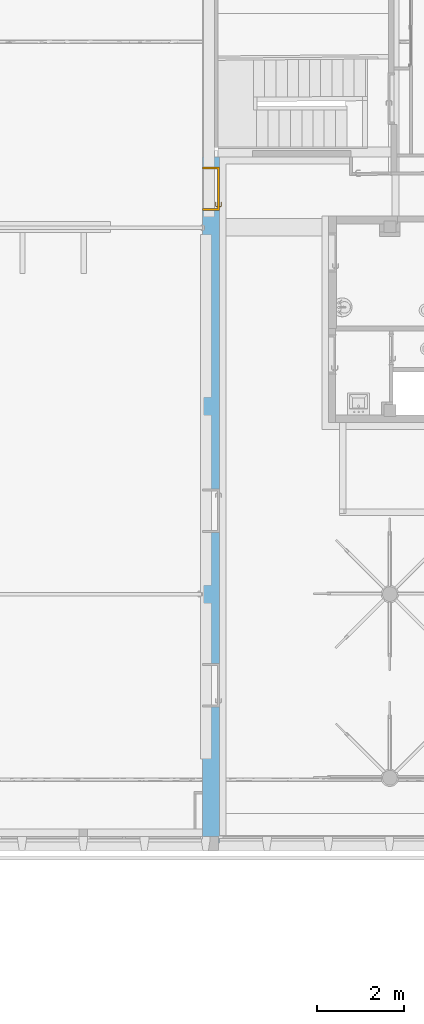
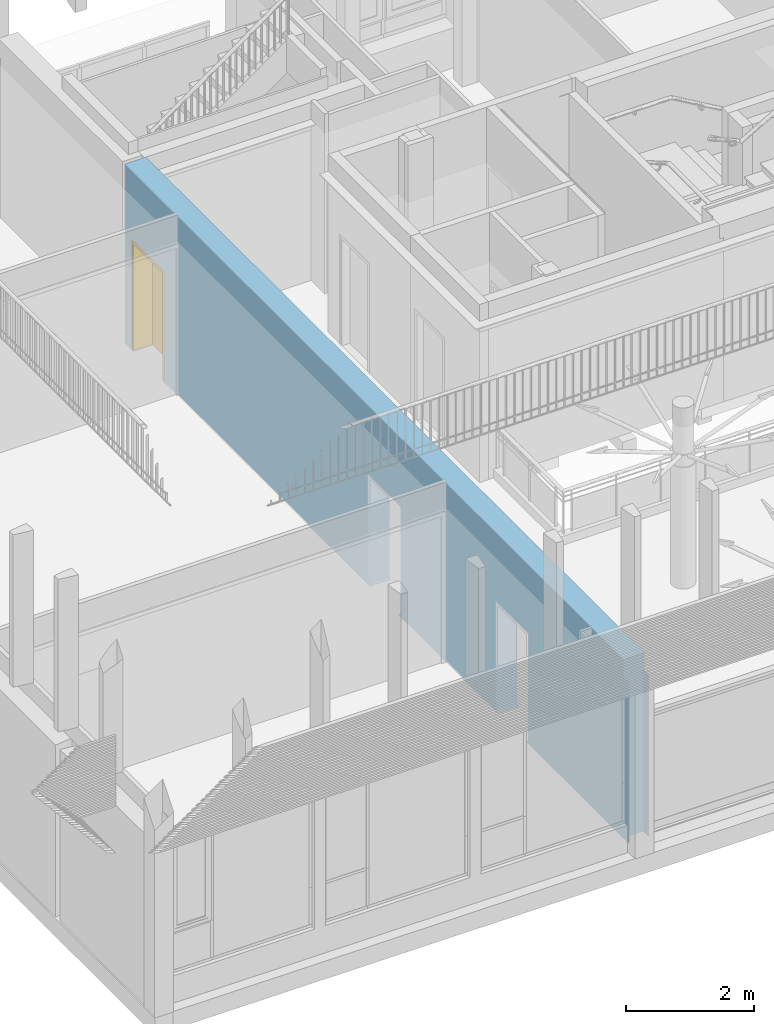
# One storey, part 30 of 65: 1 door, 3 openings, plus 1 element that does not belong to this part.
"""IFC4 building model written with IfcOpenShell, lengths in metres."""

from ifc_helpers import new_model, entity, si_unit, converted_unit, derived_unit, direction, frame, origin, place, context, subcontext, project, spatial, indexed_curve, outline, extrude, polygons, source, transform, mapped, material, material_list, layer, layer_set, constituent, constituent_set, type_object, type_shapes, element, fill, save


model = new_model("IFC4")

# Units and contexts
model_context = context("Model", 3, precision=1e-05, world=origin(), true_north=direction((6.12303176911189e-17, 1.0)))
body_context = subcontext(model_context, "Body", "Model", "MODEL_VIEW")
ifc_project = project(units=[si_unit("LENGTHUNIT", "METRE"), si_unit("AREAUNIT", "SQUARE_METRE"), si_unit("VOLUMEUNIT", "CUBIC_METRE"), converted_unit("PLANEANGLEUNIT", "DEGREE", entity("IfcRatioMeasure", 0.0174532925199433), si_unit("PLANEANGLEUNIT", "RADIAN"), dimensions=[0, 0, 0, 0, 0, 0, 0]), si_unit("MASSUNIT", "GRAM", prefix="KILO"), derived_unit("MASSDENSITYUNIT", [(si_unit("MASSUNIT", "GRAM", prefix="KILO"), 1), (si_unit("LENGTHUNIT", "METRE"), -3)]), derived_unit("MOMENTOFINERTIAUNIT", [(si_unit("LENGTHUNIT", "METRE"), 4)]), si_unit("TIMEUNIT", "SECOND"), si_unit("FREQUENCYUNIT", "HERTZ"), si_unit("THERMODYNAMICTEMPERATUREUNIT", "DEGREE_CELSIUS"), derived_unit("THERMALTRANSMITTANCEUNIT", [(si_unit("MASSUNIT", "GRAM", prefix="KILO"), 1), (si_unit("THERMODYNAMICTEMPERATUREUNIT", "KELVIN"), -1), (si_unit("TIMEUNIT", "SECOND"), -3)]), derived_unit("VOLUMETRICFLOWRATEUNIT", [(si_unit("LENGTHUNIT", "METRE"), 3), (si_unit("TIMEUNIT", "SECOND"), -1)]), si_unit("ELECTRICCURRENTUNIT", "AMPERE"), si_unit("ELECTRICVOLTAGEUNIT", "VOLT"), si_unit("POWERUNIT", "WATT"), si_unit("FORCEUNIT", "NEWTON", prefix="KILO"), si_unit("ILLUMINANCEUNIT", "LUX"), si_unit("LUMINOUSFLUXUNIT", "LUMEN"), si_unit("LUMINOUSINTENSITYUNIT", "CANDELA"), derived_unit("USERDEFINED", [(si_unit("MASSUNIT", "GRAM", prefix="KILO"), -1), (si_unit("LENGTHUNIT", "METRE"), -2), (si_unit("TIMEUNIT", "SECOND"), 3), (si_unit("LUMINOUSFLUXUNIT", "LUMEN"), 1)]), derived_unit("LINEARVELOCITYUNIT", [(si_unit("LENGTHUNIT", "METRE"), 1), (si_unit("TIMEUNIT", "SECOND"), -1)]), si_unit("PRESSUREUNIT", "PASCAL"), derived_unit("USERDEFINED", [(si_unit("LENGTHUNIT", "METRE"), -2), (si_unit("MASSUNIT", "GRAM", prefix="KILO"), 1), (si_unit("TIMEUNIT", "SECOND"), -2)]), derived_unit("LINEARFORCEUNIT", [(si_unit("MASSUNIT", "GRAM", prefix="KILO"), 1), (si_unit("LENGTHUNIT", "METRE"), 1), (si_unit("TIMEUNIT", "SECOND"), -2), (si_unit("LENGTHUNIT", "METRE"), -1)]), derived_unit("PLANARFORCEUNIT", [(si_unit("MASSUNIT", "GRAM", prefix="KILO"), 1), (si_unit("LENGTHUNIT", "METRE"), 1), (si_unit("TIMEUNIT", "SECOND"), -2), (si_unit("LENGTHUNIT", "METRE"), -2)])], contexts=[model_context])

# Site, building, storey
site_placement = place(None, origin())
site = spatial("IfcSite", under=ifc_project, at=site_placement, Name="Default", CompositionType="ELEMENT")
building_placement = place(site_placement, origin())
building = spatial("IfcBuilding", under=site, at=building_placement, Name="HOTEL CONSULAIRE BOULOGNE SUR MER", CompositionType="ELEMENT")
storey_placement = place(building_placement, origin())
storey = spatial("IfcBuildingStorey", under=building, at=storey_placement, Name="Niveau 0", CompositionType="ELEMENT", Elevation=1.31981936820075e-13)

# Wall, openings, door
ifc_material_1 = material(Name="Mur par défaut", Category="Divers")
ifc_layer = layer(ifc_material_1, 0.38, Name="Mur par défaut", Category="Divers")
ifc_layer_set = layer_set([ifc_layer], Name="Mur de base:Générique - Int.380")
wall_type = type_object("IfcWallType", Name="Mur de base:Générique - Int.380", PredefinedType="NOTDEFINED", material=ifc_layer_set)
wall_placement = place(storey_placement, frame((-5.31977317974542, -29.7040671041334, -0.0200000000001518), z_axis=(0.0, 0.0, 1.0), x_axis=(0.0, 1.0, 0.0)))
wall = element("IfcWall", 1, at=wall_placement, inside=storey, type_object=wall_type, material=ifc_layer_set, Name="Mur de base:Générique - Int.380", ObjectType="Mur de base:Générique - Int.380", PredefinedType="NOTDEFINED", context=body_context, shape_type="Tessellation", body=[
    polygons([(0.139999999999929, 0.169207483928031, 3.07112697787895), (0.139999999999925, 0.190000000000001, 3.07112697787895), (0.0, 0.19, 3.07112697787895), (0.0, 0.169207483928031, 3.07112697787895), (7.14209025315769, -0.189999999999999, 1.48048240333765e-16), (4.05599999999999, -0.19, 8.45989944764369e-17), (4.05599999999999, 0.19, 8.45989944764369e-17), (5.6490162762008, 0.190000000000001, 1.18438592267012e-16), (5.72901627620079, 0.190000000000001, 1.18438592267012e-16), (7.14209025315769, 0.190000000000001, 1.48048240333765e-16), (7.09209025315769, 0.19, 0.0200000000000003), (7.09209025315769, -0.190000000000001, 0.0200000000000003), (7.14209025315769, -0.19, 0.0200000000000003), (7.14209025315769, 0.19, 0.0200000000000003), (15.6803636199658, 0.19, 3.25706128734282e-16), (15.6803636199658, -0.19, 3.25706128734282e-16), (15.4057773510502, -0.19, 3.2147617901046e-16), (15.4057773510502, 0.19, 3.2147617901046e-16), (15.4557773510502, -0.19, 0.0200000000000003), (15.4557773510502, 0.19, 0.0200000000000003), (15.4057773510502, 0.19, 0.0200000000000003), (15.4057773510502, -0.19, 0.0200000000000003), (14.5057773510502, -0.19, 3.00326430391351e-16), (8.04209025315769, -0.19, 1.64968039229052e-16), (8.04209025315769, 0.19, 1.64968039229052e-16), (14.0267749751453, 0.190000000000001, 2.91866530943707e-16), (14.1067749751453, 0.19, 2.91866530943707e-16), (14.5057773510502, 0.190000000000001, 3.00326430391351e-16), (4.10599999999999, -0.19, 0.0200000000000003), (4.106, 0.19, 0.0200000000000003), (4.05599999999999, 0.19, 0.0200000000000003), (4.05599999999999, -0.19, 0.0200000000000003), (0.0, 0.19, 0.0), (0.0, 0.169207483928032, 0.0), (4.106, -0.19, 2.095), (7.09209025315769, -0.190000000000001, 2.095), (8.09209025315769, -0.19, 2.095), (8.09209025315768, -0.19, 0.0200000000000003), (8.04209025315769, -0.19, 0.0200000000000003), (14.5057773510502, -0.190000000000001, 0.0200000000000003), (14.4557773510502, -0.190000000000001, 0.0200000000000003), (14.4557773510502, -0.190000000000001, 2.095), (15.4557773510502, -0.19, 2.095), (15.6803636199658, -0.19, 3.40652697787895), (0.139999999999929, -0.19, 3.40652697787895), (0.139999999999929, -0.19, 3.07112697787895), (0.0, -0.19, 3.07112697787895), (0.0, -0.19, 0.0), (0.0460000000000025, -0.19, 0.0), (0.166000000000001, -0.19, 4.22994972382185e-18), (3.15599999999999, -0.19, 6.34492458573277e-17), (3.15599999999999, -0.19, 0.0200000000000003), (3.106, -0.19, 0.0200000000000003), (3.106, -0.19, 2.095), (4.10599999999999, 0.19, 2.095), (3.106, 0.19, 2.095), (3.106, 0.19, 0.0350000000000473), (3.106, 0.19, 0.0200000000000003), (3.15599999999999, 0.19, 0.0200000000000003), (3.15599999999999, 0.19, 6.34492458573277e-17), (1.16997686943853, 0.19, 2.53796983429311e-17), (1.11997686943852, 0.19, 2.11497486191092e-17), (0.316000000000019, 0.19, 8.45989944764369e-18), (0.26700821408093, 0.19, 4.22994972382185e-18), (0.150000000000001, 0.190000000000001, 4.22994972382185e-18), (0.0459999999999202, 0.19, 0.0), (0.139999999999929, 0.190000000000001, 3.40652697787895), (15.6803636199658, 0.19, 3.40652697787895), (15.6803636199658, 0.19, 0.0350000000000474), (15.4557773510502, 0.19, 0.0350000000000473), (15.4557773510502, 0.19, 2.095), (14.4557773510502, 0.19, 2.095), (14.4557773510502, 0.19, 0.0350000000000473), (14.4557773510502, 0.19, 0.0200000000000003), (14.5057773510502, 0.19, 0.0200000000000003), (8.04209025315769, 0.19, 0.0200000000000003), (8.09209025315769, 0.19, 0.0200000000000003), (8.09209025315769, 0.19, 0.0350000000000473), (8.09209025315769, 0.19, 2.095), (7.09209025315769, 0.19, 2.095), (7.09209025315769, 0.19, 0.0350000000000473), (4.106, 0.19, 0.0350000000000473), (14.1067749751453, 0.19, 0.0350000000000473), (14.1067749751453, 0.19, 2.91000000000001), (14.0267749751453, 0.19, 2.91000000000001), (14.0267749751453, 0.19, 0.0350000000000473), (0.150000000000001, -0.170792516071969, 3.07152697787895), (0.150000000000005, -0.170792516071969, 0.0), (0.0, -0.170792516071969, 0.0), (0.0, -0.170792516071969, 3.07112697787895), (0.139999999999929, -0.170792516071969, 3.07112697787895), (0.139999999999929, -0.170792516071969, 3.07152697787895), (0.150000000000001, 0.169207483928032, 0.0), (0.150000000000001, 0.169207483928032, 3.07152697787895), (0.139999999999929, 0.169207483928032, 3.07152697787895), (14.1067749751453, 0.149326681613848, 0.0350000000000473), (14.1067749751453, 0.149326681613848, 2.91000000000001), (14.0267749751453, 0.149326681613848, 2.91000000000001), (14.0267749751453, 0.149326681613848, 0.0350000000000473)], [[[3, 4, 1, 2]], [[12, 13, 14, 11]], [[21, 22, 19, 20]], [[30, 31, 32, 29]], [[59, 58, 53, 52]], [[38, 77, 76, 39]], [[75, 74, 41, 40]], [[86, 99, 96, 83]], [[45, 44, 68, 67]], [[90, 47, 46, 91]], [[5, 6, 7, 8, 9, 10]], [[16, 17, 18, 15]], [[23, 24, 25, 26, 27, 28]], [[55, 35, 54, 56]], [[36, 80, 79, 37]], [[71, 43, 42, 72]], [[85, 84, 97, 98]], [[49, 48, 89, 88, 93, 34, 33, 66, 65, 64, 63, 62, 61, 60, 51, 50]], [[94, 87, 92, 95]], [[34, 4, 3, 33]], [[82, 30, 29, 35, 55]], [[38, 37, 79, 78, 77]], [[70, 20, 19, 43, 71]], [[88, 87, 94, 93]], [[84, 83, 96, 97]], [[48, 47, 90, 89]], [[91, 46, 45, 67, 2, 1, 95, 92]], [[21, 18, 17, 22]], [[76, 25, 24, 39]], [[31, 7, 6, 32]], [[47, 48, 49, 50, 51, 52, 53, 54, 35, 29, 32, 6, 5, 13, 12, 36, 37, 38, 39, 24, 23, 40, 41, 42, 43, 19, 22, 17, 16, 44, 45, 46]], [[94, 95, 1, 4, 34, 93]], [[20, 70, 71, 72, 73, 74, 75, 28, 27, 26, 25, 76, 77, 78, 79, 80, 81, 11, 14, 10, 9, 8, 7, 31, 30, 82, 55, 56, 57, 58, 59, 60, 61, 62, 63, 64, 65, 66, 33, 3, 2, 67, 68, 69, 15, 18, 21], [84, 85, 86, 83]], [[92, 87, 88, 89, 90, 91]], [[98, 97, 96, 99]], [[57, 56, 54, 53, 58]], [[36, 12, 11, 81, 80]], [[73, 72, 42, 41, 74]], [[98, 99, 86, 85]], [[44, 16, 15, 69, 68]], [[75, 40, 23, 28]], [[14, 13, 5, 10]], [[52, 51, 60, 59]]], closed=True),
])
opening_1_placement = place(wall_placement, frame((4.10599999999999, 0.189999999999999, 0.0200000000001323)))
element("IfcOpeningElement", 2, at=opening_1_placement, cuts=wall, Name="Int. Simple:PP0.93x2.04:1", ObjectType="Opening", PredefinedType="OPENING", context=body_context, shape_type="SweptSolid", body=[
    extrude(outline(indexed_curve([(0.0, -9.19159011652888e-31), (2.075, -9.19159011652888e-31), (2.075, 1.0), (0.0, 1.0), (0.0, -9.19159011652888e-31)], self_intersect=False)), frame((0.0, 0.0, 0.0), z_axis=(0.0, -1.0, 0.0), x_axis=(0.0, 0.0, 1.0)), (0.0, 0.0, 1.0), 0.38),
])
opening_2_placement = place(wall_placement, frame((8.09209025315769, 0.19, 0.0200000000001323)))
element("IfcOpeningElement", 3, at=opening_2_placement, cuts=wall, Name="Int. Simple:PP0.93x2.04:1", ObjectType="Opening", PredefinedType="OPENING", context=body_context, shape_type="SweptSolid", body=[
    extrude(outline(indexed_curve([(0.0, 1.0), (0.0, -9.19159011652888e-31), (2.075, -9.19159011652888e-31), (2.075, 1.0), (0.0, 1.0)], self_intersect=False)), frame((0.0, 0.0, 0.0), z_axis=(0.0, -1.0, 0.0), x_axis=(0.0, 0.0, 1.0)), (0.0, 0.0, 1.0), 0.38),
])
opening_3_placement = place(wall_placement, frame((15.4557773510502, 0.189999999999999, 0.0200000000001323)))
opening_3 = element("IfcOpeningElement", 4, at=opening_3_placement, cuts=wall, Name="Int. Simple:PP0.93x2.04:1", ObjectType="Opening", PredefinedType="OPENING", context=body_context, shape_type="SweptSolid", body=[
    extrude(outline(indexed_curve([(0.0, 2.16573425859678e-15), (2.075, 2.16573425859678e-15), (2.075, 1.0), (0.0, 1.0), (0.0, 2.16573425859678e-15)], self_intersect=False)), frame((0.0, 0.0, 0.0), z_axis=(0.0, -1.0, 0.0), x_axis=(0.0, 0.0, 1.0)), (0.0, 0.0, 1.0), 0.38),
])
ifc_material_2 = material(Name="Finition Peinture - Blanc satiné", Category="Peinture")
ifc_constituent_1 = constituent(ifc_material_2, Name="Finition Peinture - Blanc satiné", Category="Matériaux")
ifc_material_3 = material(Name="Bois - Panneau de porte", Category="Bois")
ifc_constituent_2 = constituent(ifc_material_3, Name="Bois - Panneau de porte", Category="Matériaux")
ifc_material_4 = material(Name="Bois - Cadre de porte", Category="Bois")
ifc_constituent_3 = constituent(ifc_material_4, Name="Bois - Cadre de porte", Category="Matériaux")
ifc_constituent_set = constituent_set(constituents=[ifc_constituent_1, ifc_constituent_2, ifc_constituent_3], Name="MaterialConstituentSet")
ifc_material_list = material_list([ifc_material_3, ifc_material_4, ifc_material_2, ifc_material_4])
door_type = type_object("IfcDoorType", Name="Int. Simple:PP0.93x2.04", OperationType="NOTDEFINED", PredefinedType="DOOR", material=ifc_material_list)
shared_shape = source(origin(), body_context, "Body", "Tessellation", [
    polygons([(0.075000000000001, -0.0050000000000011, 0.870000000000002), (0.0846472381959, -0.0050000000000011, 0.866003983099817), (0.0950000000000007, -0.0050000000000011, 0.86464101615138), (0.105352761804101, -0.00500000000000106, 0.866003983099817), (0.115, -0.00500000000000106, 0.870000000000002), (0.114999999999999, -0.00500000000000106, 1.08), (0.1053527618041, -0.00500000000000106, 1.08399601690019), (0.0949999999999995, -0.0050000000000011, 1.08535898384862), (0.0846472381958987, -0.0050000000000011, 1.08399601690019), (0.0749999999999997, -0.0050000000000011, 1.08), (0.0749999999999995, -1.11670672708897e-15, 0.870000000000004), (0.0749999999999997, -1.11670672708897e-15, 1.08), (0.0846472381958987, -1.11670672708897e-15, 1.08399601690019), (0.0949999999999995, -1.11670672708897e-15, 1.08535898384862), (0.1053527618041, -1.08286712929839e-15, 1.08399601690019), (0.114999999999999, -1.08286712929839e-15, 1.08), (0.115, -1.08286712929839e-15, 0.870000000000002), (0.105352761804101, -1.08286712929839e-15, 0.866003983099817), (0.0950000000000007, -1.11670672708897e-15, 0.86464101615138), (0.0846472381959, -1.11670672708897e-15, 0.866003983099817)], [[[4, 5, 6, 7, 8, 9, 10, 1, 2, 3]], [[15, 16, 17, 18, 19, 20, 11, 12, 13, 14]], [[11, 20, 2, 1]], [[2, 20, 19, 3]], [[19, 18, 4, 3]], [[18, 17, 5, 4]], [[6, 5, 17, 16]], [[16, 15, 7, 6]], [[7, 15, 14, 8]], [[14, 13, 9, 8]], [[13, 12, 10, 9]], [[1, 10, 12, 11]]], closed=True),
    polygons([(0.114999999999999, 0.0399999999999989, 1.08), (0.1053527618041, 0.0399999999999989, 1.08399601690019), (0.0949999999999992, 0.0399999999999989, 1.08535898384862), (0.0846472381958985, 0.0399999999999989, 1.08399601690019), (0.0749999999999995, 0.0399999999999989, 1.08), (0.075000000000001, 0.0399999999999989, 0.870000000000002), (0.0846472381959, 0.0399999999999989, 0.866003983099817), (0.0950000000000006, 0.0399999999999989, 0.86464101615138), (0.105352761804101, 0.0399999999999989, 0.866003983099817), (0.115, 0.0399999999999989, 0.870000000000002), (0.114999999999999, 0.0449999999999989, 1.08), (0.115, 0.0449999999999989, 0.870000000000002), (0.105352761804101, 0.0449999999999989, 0.866003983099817), (0.0950000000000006, 0.0449999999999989, 0.86464101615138), (0.0846472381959, 0.0449999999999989, 0.866003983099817), (0.0749999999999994, 0.0449999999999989, 0.870000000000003), (0.0749999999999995, 0.0449999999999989, 1.08), (0.0846472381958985, 0.0449999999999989, 1.08399601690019), (0.0949999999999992, 0.0449999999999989, 1.08535898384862), (0.1053527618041, 0.0449999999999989, 1.08399601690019)], [[[9, 10, 1, 2, 3, 4, 5, 6, 7, 8]], [[20, 11, 12, 13, 14, 15, 16, 17, 18, 19]], [[11, 20, 2, 1]], [[2, 20, 19, 3]], [[19, 18, 4, 3]], [[18, 17, 5, 4]], [[6, 5, 17, 16]], [[16, 15, 7, 6]], [[7, 15, 14, 8]], [[14, 13, 9, 8]], [[13, 12, 10, 9]], [[1, 10, 12, 11]]], closed=True),
    polygons([(0.0889999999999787, -0.00500000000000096, 1.007), (0.0929747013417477, -0.00500000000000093, 1.00778044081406), (0.097025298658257, -0.00500000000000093, 1.00778044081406), (0.101000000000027, -0.00500000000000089, 1.00699999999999), (0.101000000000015, -0.00500000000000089, 0.993000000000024), (0.0970252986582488, -0.00500000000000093, 0.992219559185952), (0.0929747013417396, -0.00500000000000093, 0.99221955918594), (0.0889999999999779, -0.00500000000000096, 0.992999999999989), (0.0889999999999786, -0.0326509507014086, 1.007), (0.0929747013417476, -0.0310045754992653, 1.00778044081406), (0.0970252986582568, -0.029326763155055, 1.00778044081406), (0.101000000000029, -0.0276803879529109, 1.007), (0.101000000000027, -0.0276803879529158, 0.993000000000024), (0.0970252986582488, -0.0293267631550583, 0.992219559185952), (0.0929747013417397, -0.0310045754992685, 0.99221955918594), (0.0889999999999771, -0.0326509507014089, 0.992999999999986), (0.107377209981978, -0.0510281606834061, 1.007), (0.109023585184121, -0.0470534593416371, 1.00778044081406), (0.110701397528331, -0.0430028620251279, 1.00778044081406), (0.112347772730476, -0.0390281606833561, 1.007), (0.112347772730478, -0.0390281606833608, 0.993000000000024), (0.110701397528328, -0.0430028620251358, 0.992219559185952), (0.109023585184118, -0.047053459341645, 0.99221955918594), (0.107377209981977, -0.0510281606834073, 0.992999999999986), (0.195018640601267, -0.0510281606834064, 1.00699999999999), (0.195018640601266, -0.0510281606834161, 0.992999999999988), (0.195018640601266, -0.0470534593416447, 0.99221955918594), (0.195018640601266, -0.0430028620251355, 0.992219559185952), (0.195018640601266, -0.039028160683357, 0.993000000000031), (0.195018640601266, -0.0390281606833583, 1.007), (0.195018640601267, -0.0430028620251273, 1.00778044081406), (0.195018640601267, -0.0470534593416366, 1.00778044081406), (0.147307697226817, -0.0510281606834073, 1.007), (0.152860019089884, -0.045028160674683, 1.0078786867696), (0.15368320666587, -0.039028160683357, 1.007), (0.147307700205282, -0.0510281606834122, 0.992999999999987), (0.152860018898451, -0.0450281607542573, 0.992121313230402), (0.153683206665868, -0.039028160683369, 0.993000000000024)], [[[2, 3, 4, 5, 6, 7, 8, 1]], [[21, 20, 35, 30, 29, 38]], [[9, 10, 2, 1]], [[10, 18, 19, 11, 3, 2]], [[11, 12, 4, 3]], [[5, 4, 12, 13]], [[26, 27, 28, 29, 30, 31, 32, 25]], [[13, 14, 6, 5]], [[14, 22, 23, 15, 7, 6]], [[15, 16, 8, 7]], [[1, 8, 16, 9]], [[17, 18, 10, 9]], [[19, 20, 12, 11]], [[13, 12, 20, 21]], [[21, 22, 14, 13]], [[23, 24, 16, 15]], [[9, 16, 24, 17]], [[33, 32, 34]], [[25, 32, 33]], [[18, 17, 33]], [[34, 35, 19]], [[20, 19, 35]], [[35, 31, 30]], [[32, 31, 34]], [[31, 35, 34]], [[18, 33, 34]], [[18, 34, 19]], [[38, 28, 37]], [[36, 37, 27]], [[21, 38, 22]], [[38, 29, 28]], [[26, 36, 27]], [[24, 23, 36]], [[36, 23, 37]], [[23, 22, 37]], [[22, 38, 37]], [[27, 37, 28]], [[17, 24, 36, 26, 25, 33]]], closed=True),
    polygons([(0.10100000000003, 0.0449999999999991, 0.993000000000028), (0.101000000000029, 0.0449999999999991, 1.007), (0.0970252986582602, 0.044999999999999, 1.00778044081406), (0.092974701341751, 0.044999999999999, 1.00778044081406), (0.0889999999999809, 0.044999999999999, 1.007), (0.0889999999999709, 0.044999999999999, 0.992999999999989), (0.0929747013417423, 0.044999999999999, 0.99221955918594), (0.0970252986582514, 0.044999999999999, 0.992219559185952), (0.10100000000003, 0.067485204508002, 0.993000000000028), (0.10100000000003, 0.0674852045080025, 1.007), (0.0970252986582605, 0.0691315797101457, 1.00778044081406), (0.0929747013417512, 0.0708093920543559, 1.00778044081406), (0.088999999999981, 0.0724557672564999, 1.007), (0.0889999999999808, 0.072455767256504, 0.992999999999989), (0.092974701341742, 0.0708093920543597, 0.99221955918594), (0.0970252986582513, 0.0691315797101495, 0.992219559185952), (0.112485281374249, 0.0789704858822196, 0.993000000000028), (0.112485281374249, 0.0789704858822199, 1.007), (0.110838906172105, 0.0829451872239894, 1.00778044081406), (0.109161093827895, 0.0869957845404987, 1.00778044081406), (0.107514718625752, 0.0909704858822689, 1.007), (0.107514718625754, 0.090970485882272, 0.992999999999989), (0.109161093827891, 0.0869957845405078, 0.99221955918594), (0.110838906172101, 0.0829451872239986, 0.992219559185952), (0.195045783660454, 0.0789704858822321, 0.993000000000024), (0.195045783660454, 0.0829451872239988, 0.992219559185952), (0.195045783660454, 0.086995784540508, 0.99221955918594), (0.195045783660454, 0.0909704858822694, 0.992999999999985), (0.195045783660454, 0.0909704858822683, 1.007), (0.195045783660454, 0.0869957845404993, 1.00778044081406), (0.195045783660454, 0.08294518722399, 1.00778044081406), (0.195045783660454, 0.0789704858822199, 1.007), (0.147445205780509, 0.0909704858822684, 1.007), (0.152942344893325, 0.0849704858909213, 1.0078786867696), (0.153765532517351, 0.0789704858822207, 1.007), (0.147445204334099, 0.0909704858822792, 0.992999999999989), (0.152942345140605, 0.0849704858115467, 0.992121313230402), (0.153765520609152, 0.0789704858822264, 0.993000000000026)], [[[4, 5, 6, 7, 8, 1, 2, 3]], [[18, 17, 38, 25, 32, 35]], [[2, 1, 9, 10]], [[25, 26, 27, 28, 29, 30, 31, 32]], [[10, 11, 3, 2]], [[11, 19, 20, 12, 4, 3]], [[12, 13, 5, 4]], [[6, 5, 13, 14]], [[14, 15, 7, 6]], [[15, 23, 24, 16, 8, 7]], [[16, 9, 1, 8]], [[10, 9, 17, 18]], [[18, 19, 11, 10]], [[20, 21, 13, 12]], [[14, 13, 21, 22]], [[22, 23, 15, 14]], [[24, 17, 9, 16]], [[35, 31, 34]], [[33, 34, 30]], [[18, 35, 19]], [[35, 32, 31]], [[29, 33, 30]], [[21, 20, 33]], [[33, 20, 34]], [[20, 19, 34]], [[19, 35, 34]], [[30, 34, 31]], [[21, 33, 29, 28, 36, 22]], [[36, 27, 37]], [[28, 27, 36]], [[23, 22, 36]], [[37, 38, 24]], [[17, 24, 38]], [[38, 26, 25]], [[27, 26, 37]], [[26, 38, 37]], [[23, 36, 37]], [[23, 37, 24]]], closed=True),
    polygons([(0.0349999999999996, 0.04, 2.04), (0.965, 0.04, 2.04), (0.965, 0.04, 0.0), (0.0349999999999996, 0.04, 0.0), (0.0349999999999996, 0.0, 2.04), (0.0349999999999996, 0.0, 0.0), (0.965, 0.0, 0.0), (0.965, 0.0, 2.04)], [[[4, 1, 2, 3]], [[7, 8, 5, 6]], [[2, 1, 5, 8]], [[3, 2, 8, 7]], [[4, 3, 7, 6]], [[1, 4, 6, 5]]], closed=True),
    polygons([(-1.53631773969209e-14, 0.0, 0.0), (-1.53631773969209e-14, 0.380000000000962, 0.0), (0.0499999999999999, 0.380000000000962, 0.0), (0.0499999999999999, 0.040000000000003, 0.0), (0.0349999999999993, 0.040000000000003, 0.0), (0.0349999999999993, 0.0, 0.0), (-1.51601398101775e-14, 0.0, 2.07500000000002), (-1.51601398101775e-14, 0.380000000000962, 2.07500000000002), (1.00000000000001, 0.380000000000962, 2.07500000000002), (1.00000000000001, 0.380000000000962, 3.88816484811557e-25), (0.95, 0.380000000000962, 3.59657255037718e-24), (0.95, 0.380000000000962, 2.025), (0.05, 0.380000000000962, 2.025), (0.05, 0.040000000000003, 2.025), (0.95, 0.040000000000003, 2.025), (0.95, 0.040000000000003, 2.24110802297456e-24), (0.965, 0.040000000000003, -4.78103047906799e-25), (0.965, 0.040000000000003, 2.04), (0.0349999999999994, 0.040000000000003, 2.04), (0.0349999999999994, 0.0, 2.04), (0.965, 0.0, 2.04), (0.965, 0.0, -2.84752548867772e-24), (1.00000000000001, 0.0, -3.95490158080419e-25), (1.00000000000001, 0.0, 2.07500000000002)], [[[5, 6, 1, 2, 3, 4]], [[11, 10, 23, 22, 17, 16]], [[14, 13, 12, 15]], [[20, 19, 18, 21]], [[2, 1, 7, 8]], [[15, 12, 11, 16]], [[21, 18, 17, 22]], [[3, 2, 8, 9, 10, 11, 12, 13]], [[4, 3, 13, 14]], [[6, 5, 19, 20]], [[9, 24, 23, 10]], [[16, 17, 18, 19, 5, 4, 14, 15]], [[22, 23, 24, 7, 1, 6, 20, 21]], [[8, 7, 24, 9]]], closed=True),
    polygons([(0.0149999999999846, 0.380000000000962, 0.0), (-0.0150000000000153, 0.380000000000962, 0.0), (-0.0150000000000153, 0.385000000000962, 0.0), (0.0149999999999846, 0.385000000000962, 0.0), (0.0149999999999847, 0.380000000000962, 2.06000000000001), (0.98499999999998, 0.380000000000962, 2.06000000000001), (0.98499999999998, 0.380000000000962, -1.80158911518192e-24), (1.01499999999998, 0.380000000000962, -9.00794238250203e-25), (1.01499999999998, 0.380000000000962, 2.09000000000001), (-0.0150000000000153, 0.380000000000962, 2.09000000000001), (-0.0150000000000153, 0.385000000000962, 2.09000000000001), (1.01499999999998, 0.385000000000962, 2.09000000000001), (1.01499999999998, 0.385000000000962, -5.48159974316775e-24), (0.98499999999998, 0.385000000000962, -4.34281663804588e-24), (0.98499999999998, 0.385000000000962, 2.06000000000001), (0.0149999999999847, 0.385000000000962, 2.06000000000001)], [[[2, 3, 4, 1]], [[14, 13, 8, 7]], [[5, 16, 15, 6]], [[7, 8, 9, 10, 2, 1, 5, 6]], [[3, 2, 10, 11]], [[6, 15, 14, 7]], [[4, 3, 11, 12, 13, 14, 15, 16]], [[1, 4, 16, 5]], [[12, 9, 8, 13]], [[11, 10, 9, 12]]], closed=True),
    polygons([(0.98499999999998, -0.00500000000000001, 5.41433564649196e-16), (0.98499999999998, 0.0, 5.41433564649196e-16), (1.01499999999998, 0.0, 5.41433564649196e-16), (1.01499999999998, -0.00500000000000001, 5.41433564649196e-16), (0.0149999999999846, -0.00500000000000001, 0.0), (-0.0150000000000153, -0.00500000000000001, 0.0), (-0.0150000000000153, 0.0, 0.0), (0.0149999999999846, 0.0, 0.0), (0.0149999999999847, -0.00500000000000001, 2.06000000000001), (0.98499999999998, -0.00500000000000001, 2.06000000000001), (1.01499999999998, -0.00500000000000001, 2.09000000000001), (-0.0150000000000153, -0.00500000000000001, 2.09000000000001), (-0.0150000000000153, 0.0, 2.09000000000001), (1.01499999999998, 0.0, 2.09000000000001), (0.98499999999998, 0.0, 2.06000000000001), (0.0149999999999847, 0.0, 2.06000000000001)], [[[2, 3, 4, 1]], [[5, 6, 7, 8]], [[9, 16, 15, 10]], [[1, 4, 11, 12, 6, 5, 9, 10]], [[7, 6, 12, 13]], [[10, 15, 2, 1]], [[8, 7, 13, 14, 3, 2, 15, 16]], [[5, 8, 16, 9]], [[14, 11, 4, 3]], [[13, 12, 11, 14]]], closed=True),
])
type_shapes(door_type, [shared_shape])
door_placement = place(opening_3_placement, frame((-1.0, -0.380000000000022, 0.0)))
door = element("IfcDoor", 5, at=door_placement, inside=storey, type_object=door_type, material=ifc_constituent_set, Name="Int. Simple:PP0.93x2.04", ObjectType="Int. Simple:PP0.93x2.04", OperationType="NOTDEFINED", OverallHeight=2.075, OverallWidth=1.0, PredefinedType="DOOR", context=body_context, shape_type="MappedRepresentation", body=[
    mapped(shared_shape, transform((0.0, 0.0, 0.0), scale=1.0)),
])
fill(opening_3, door)

save(model, "model.ifc")
